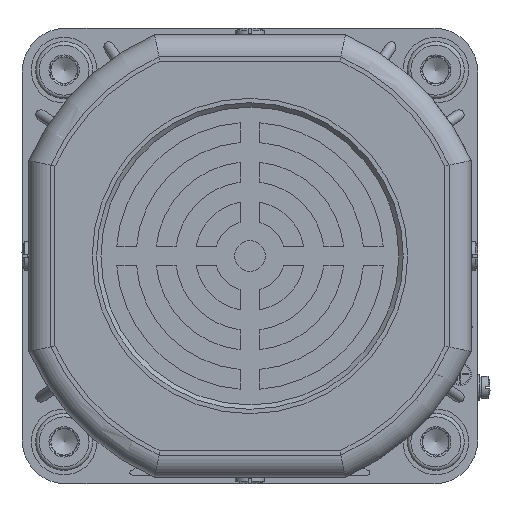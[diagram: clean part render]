
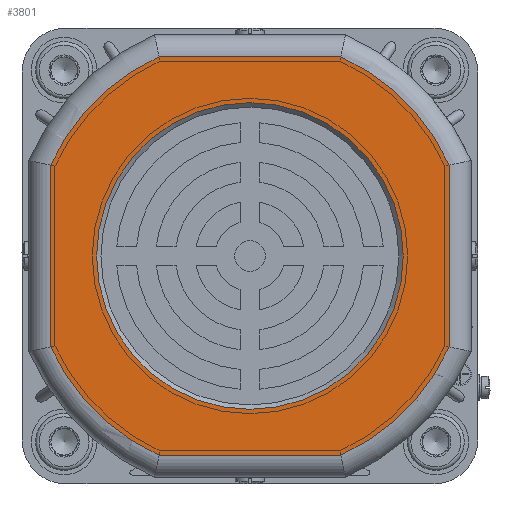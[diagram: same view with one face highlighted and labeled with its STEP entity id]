
A CAD part, left-side view. The second image highlights one B-rep face of the part: STEP entity #3801.
In plain terms, the highlighted planar face has unit normal (-1, 0, 0).
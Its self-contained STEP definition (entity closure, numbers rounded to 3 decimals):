
#2901=FACE_BOUND('',#7824,.T.);
#2902=FACE_BOUND('',#7825,.T.);
#3801=ADVANCED_FACE('',(#2901,#2902),#5610,.F.);
#5610=PLANE('',#32462);
#7824=EDGE_LOOP('',(#11593,#11594,#11595,#11596,#11597,#11598,#11599,#11600));
#7825=EDGE_LOOP('',(#11601));
#11593=ORIENTED_EDGE('',*,*,#23141,.T.);
#11594=ORIENTED_EDGE('',*,*,#23142,.T.);
#11595=ORIENTED_EDGE('',*,*,#23143,.T.);
#11596=ORIENTED_EDGE('',*,*,#23144,.T.);
#11597=ORIENTED_EDGE('',*,*,#23145,.T.);
#11598=ORIENTED_EDGE('',*,*,#23146,.T.);
#11599=ORIENTED_EDGE('',*,*,#23147,.T.);
#11600=ORIENTED_EDGE('',*,*,#23148,.T.);
#11601=ORIENTED_EDGE('',*,*,#23149,.T.);
#20159=VERTEX_POINT('',#43677);
#20160=VERTEX_POINT('',#43678);
#20161=VERTEX_POINT('',#43680);
#20162=VERTEX_POINT('',#43682);
#20163=VERTEX_POINT('',#43684);
#20164=VERTEX_POINT('',#43686);
#20165=VERTEX_POINT('',#43688);
#20166=VERTEX_POINT('',#43690);
#20167=VERTEX_POINT('',#43693);
#23141=EDGE_CURVE('',#20159,#20160,#27348,.T.);
#23142=EDGE_CURVE('',#20160,#20161,#30889,.T.);
#23143=EDGE_CURVE('',#20161,#20162,#27349,.T.);
#23144=EDGE_CURVE('',#20162,#20163,#30890,.T.);
#23145=EDGE_CURVE('',#20163,#20164,#27350,.T.);
#23146=EDGE_CURVE('',#20164,#20165,#30891,.T.);
#23147=EDGE_CURVE('',#20165,#20166,#27351,.T.);
#23148=EDGE_CURVE('',#20166,#20159,#30892,.T.);
#23149=EDGE_CURVE('',#20167,#20167,#30893,.T.);
#27348=LINE('',#43676,#28887);
#27349=LINE('',#43681,#28888);
#27350=LINE('',#43685,#28889);
#27351=LINE('',#43689,#28890);
#28887=VECTOR('',#35820,1.);
#28888=VECTOR('',#35823,1.);
#28889=VECTOR('',#35826,1.);
#28890=VECTOR('',#35829,1.);
#30889=CIRCLE('',#32457,50.);
#30890=CIRCLE('',#32458,50.);
#30891=CIRCLE('',#32459,50.);
#30892=CIRCLE('',#32460,50.);
#30893=CIRCLE('',#32461,35.);
#32457=AXIS2_PLACEMENT_3D('',#43679,#35821,#35822);
#32458=AXIS2_PLACEMENT_3D('',#43683,#35824,#35825);
#32459=AXIS2_PLACEMENT_3D('',#43687,#35827,#35828);
#32460=AXIS2_PLACEMENT_3D('',#43691,#35830,#35831);
#32461=AXIS2_PLACEMENT_3D('',#43692,#35832,#35833);
#32462=AXIS2_PLACEMENT_3D('',#43694,#35834,#35835);
#35820=DIRECTION('',(0.,-1.,0.));
#35821=DIRECTION('',(-1.,0.,0.));
#35822=DIRECTION('',(0.,0.,1.));
#35823=DIRECTION('',(0.,0.,1.));
#35824=DIRECTION('',(-1.,0.,0.));
#35825=DIRECTION('',(0.,0.,1.));
#35826=DIRECTION('',(0.,1.,0.));
#35827=DIRECTION('',(-1.,0.,0.));
#35828=DIRECTION('',(0.,0.,1.));
#35829=DIRECTION('',(0.,0.,-1.));
#35830=DIRECTION('',(-1.,0.,0.));
#35831=DIRECTION('',(0.,0.,1.));
#35832=DIRECTION('',(1.,0.,0.));
#35833=DIRECTION('',(0.,-1.,0.));
#35834=DIRECTION('',(1.,0.,0.));
#35835=DIRECTION('',(0.,0.,1.));
#43676=CARTESIAN_POINT('',(-256.374,-23.628,-45.5));
#43677=CARTESIAN_POINT('',(-256.374,18.891,-45.5));
#43678=CARTESIAN_POINT('',(-256.374,-22.569,-45.5));
#43679=CARTESIAN_POINT('',(-256.374,-1.839,0.));
#43680=CARTESIAN_POINT('',(-256.374,-47.339,-20.73));
#43681=CARTESIAN_POINT('',(-256.374,-47.339,21.789));
#43682=CARTESIAN_POINT('',(-256.374,-47.339,20.73));
#43683=CARTESIAN_POINT('',(-256.374,-1.839,0.));
#43684=CARTESIAN_POINT('',(-256.374,-22.569,45.5));
#43685=CARTESIAN_POINT('',(-256.374,19.95,45.5));
#43686=CARTESIAN_POINT('',(-256.374,18.891,45.5));
#43687=CARTESIAN_POINT('',(-256.374,-1.839,0.));
#43688=CARTESIAN_POINT('',(-256.374,43.661,20.73));
#43689=CARTESIAN_POINT('',(-256.374,43.661,-21.789));
#43690=CARTESIAN_POINT('',(-256.374,43.661,-20.73));
#43691=CARTESIAN_POINT('',(-256.374,-1.839,0.));
#43692=CARTESIAN_POINT('',(-256.374,-1.839,0.));
#43693=CARTESIAN_POINT('',(-256.374,-36.839,0.));
#43694=CARTESIAN_POINT('',(-256.374,-1.839,0.));
